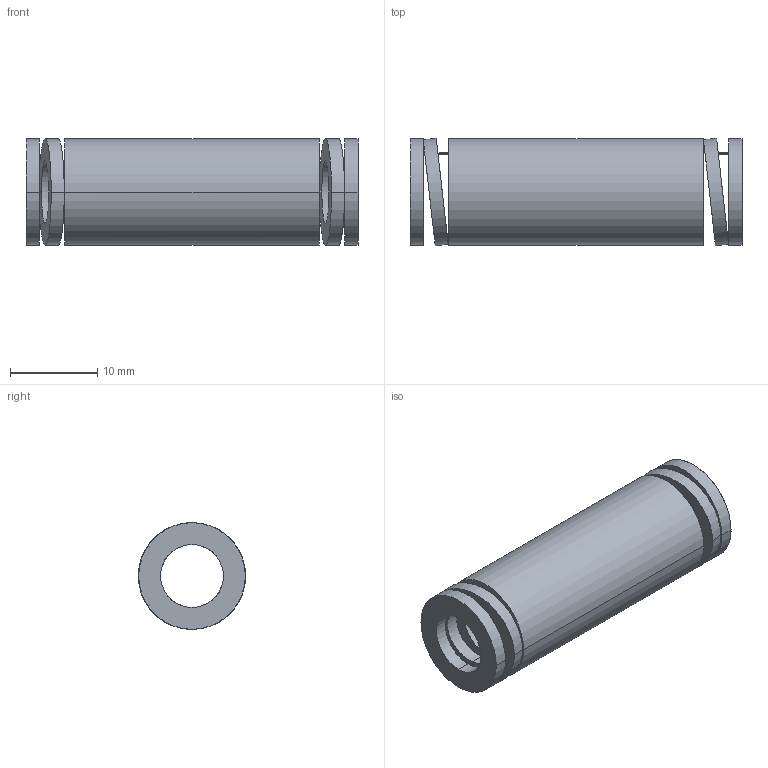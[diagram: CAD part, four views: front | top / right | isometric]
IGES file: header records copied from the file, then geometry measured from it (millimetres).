
Start section: START RECORD GO HERE.
Global section: file name: 392-B13-038.igs; native system: DASSAULT SYSTEMES CATIA V5 R20 - www.3ds.com; preprocessor: CATIA Version 5 Release 20 ; author: Utente; organization: NB04-ASUS; date: 20210812.144943; units: millimetre
Bounding box: 38 x 12.29 x 12.2 mm (x, y, z)
Surface area: 2906 mm2 (no closed solid volume)
Topology: 0 solids, 0 shells, 38 faces, 184 edges, 184 vertices
Faces by surface type: revolution 28, plane 10
